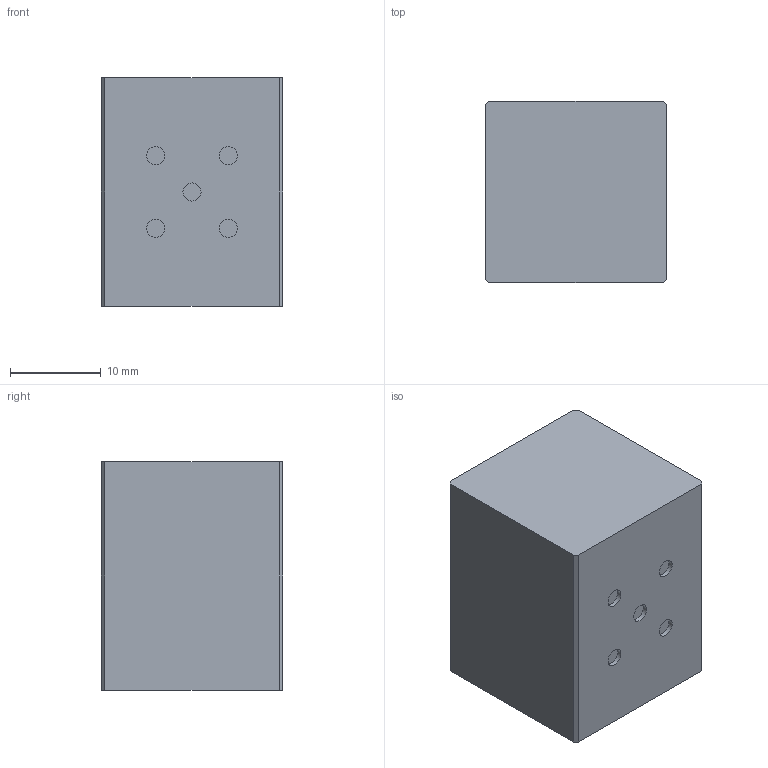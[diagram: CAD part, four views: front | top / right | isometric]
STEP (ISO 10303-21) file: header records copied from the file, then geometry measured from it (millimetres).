
FILE_DESCRIPTION(('Open CASCADE Model'),'2;1');
FILE_NAME('Open CASCADE Shape Model','2026-08-23T08:04:38',('Author'),( 'Open CASCADE'),'Open CASCADE STEP processor 7.9','Open CASCADE 7.9' ,'Unknown');
FILE_SCHEMA(('AUTOMOTIVE_DESIGN { 1 0 10303 214 1 1 1 1 }'));
Length unit declared in the file: millimetre
Products named in the file (2): =>[0:1:1:2]; COMPOUND
Assembly tree (1 placements, depth 2):
  =>[0:1:1:2]
    COMPOUND
Bounding box: 20 x 20 x 25.25 mm (x, y, z)
Volume: 10084.1 mm3; surface area: 2811.4 mm2
Topology: 1 solids, 1 shells, 20 faces, 39 edges, 26 vertices
Faces by surface type: plane 15, cylinder 5
Full cylindrical faces by diameter (mm): 2 x5
Entity records: 1079 total; most frequent: CARTESIAN_POINT 195, DIRECTION 166, LINE 97, VECTOR 97, ORIENTED_EDGE 78, PCURVE 78, DEFINITIONAL_REPRESENTATION 78, EDGE_CURVE 39
